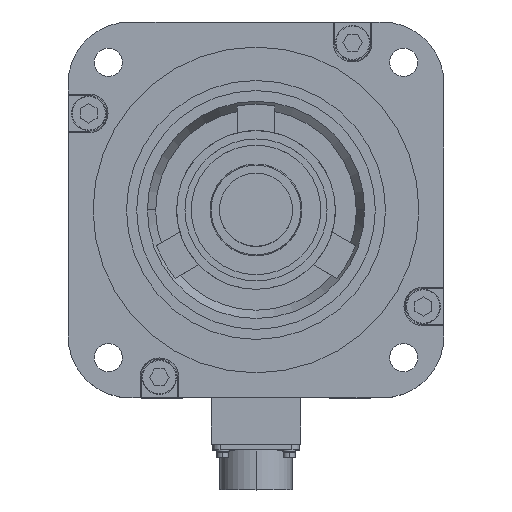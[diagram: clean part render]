
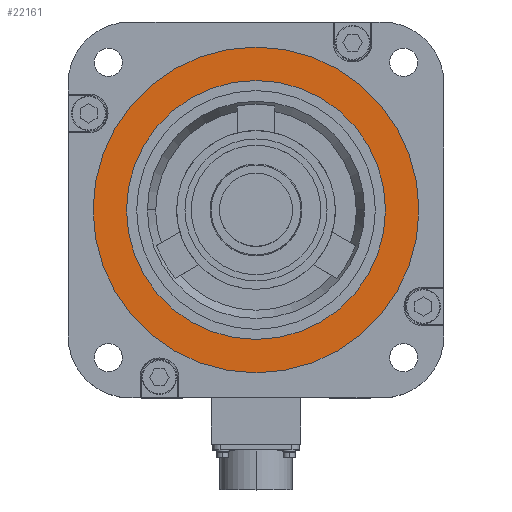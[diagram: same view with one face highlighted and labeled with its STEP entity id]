
A CAD part, top view. The second image highlights one B-rep face of the part: STEP entity #22161.
In plain terms, the highlighted planar face has unit normal (0, 0, 1).
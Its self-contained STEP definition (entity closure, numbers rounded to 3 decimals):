
#5521 = DIRECTION ( 'NONE',  ( 1., 0., 0. ) ) ;
#5522 = DIRECTION ( 'NONE',  ( 0., 0., 1. ) ) ;
#5523 = CARTESIAN_POINT ( 'NONE',  ( 0., 0., -0.5 ) ) ;
#5524 = AXIS2_PLACEMENT_3D ( 'NONE', #5523, #5522, #5521 ) ;
#5525 = CIRCLE ( 'NONE', #5524, 78. ) ;
#6931 = DIRECTION ( 'NONE',  ( 1., 0., 0. ) ) ;
#6932 = DIRECTION ( 'NONE',  ( 0., 0., 1. ) ) ;
#6933 = CARTESIAN_POINT ( 'NONE',  ( 0., 0., -0.5 ) ) ;
#6934 = AXIS2_PLACEMENT_3D ( 'NONE', #6933, #6932, #6931 ) ;
#6935 = PLANE ( 'NONE',  #6934 ) ;
#6936 = FACE_BOUND ( 'NONE', #10311, .T. ) ;
#6937 = FACE_OUTER_BOUND ( 'NONE', #22128, .T. ) ;
#8750 = VERTEX_POINT ( 'NONE', #16196 ) ;
#9053 = VERTEX_POINT ( 'NONE', #16809 ) ;
#9069 = VERTEX_POINT ( 'NONE', #16788 ) ;
#9091 = VERTEX_POINT ( 'NONE', #16826 ) ;
#9111 = EDGE_CURVE ( 'NONE', #9053, #8750, #16864, .T. ) ;
#10057 = ORIENTED_EDGE ( 'NONE', *, *, #9111, .F. ) ;
#10088 = ORIENTED_EDGE ( 'NONE', *, *, #21353, .T. ) ;
#10173 = ORIENTED_EDGE ( 'NONE', *, *, #10330, .T. ) ;
#10311 = EDGE_LOOP ( 'NONE', ( #10314, #10057 ) ) ;
#10314 = ORIENTED_EDGE ( 'NONE', *, *, #10324, .F. ) ;
#10324 = EDGE_CURVE ( 'NONE', #8750, #9053, #18977, .T. ) ;
#10330 = EDGE_CURVE ( 'NONE', #9091, #9069, #18960, .T. ) ;
#16196 = CARTESIAN_POINT ( 'NONE',  ( -62., 0., -0.5 ) ) ;
#16788 = CARTESIAN_POINT ( 'NONE',  ( -78., 0., -0.5 ) ) ;
#16809 = CARTESIAN_POINT ( 'NONE',  ( 62., 0., -0.5 ) ) ;
#16826 = CARTESIAN_POINT ( 'NONE',  ( 78., 0., -0.5 ) ) ;
#16860 = DIRECTION ( 'NONE',  ( 1., 0., 0. ) ) ;
#16861 = DIRECTION ( 'NONE',  ( 0., 0., 1. ) ) ;
#16862 = CARTESIAN_POINT ( 'NONE',  ( 0., 0., -0.5 ) ) ;
#16863 = AXIS2_PLACEMENT_3D ( 'NONE', #16862, #16861, #16860 ) ;
#16864 = CIRCLE ( 'NONE', #16863, 62. ) ;
#18956 = DIRECTION ( 'NONE',  ( 1., 0., 0. ) ) ;
#18957 = DIRECTION ( 'NONE',  ( 0., 0., 1. ) ) ;
#18958 = CARTESIAN_POINT ( 'NONE',  ( 0., 0., -0.5 ) ) ;
#18959 = AXIS2_PLACEMENT_3D ( 'NONE', #18958, #18957, #18956 ) ;
#18960 = CIRCLE ( 'NONE', #18959, 78. ) ;
#18973 = DIRECTION ( 'NONE',  ( 1., 0., 0. ) ) ;
#18974 = DIRECTION ( 'NONE',  ( 0., 0., 1. ) ) ;
#18975 = CARTESIAN_POINT ( 'NONE',  ( 0., 0., -0.5 ) ) ;
#18976 = AXIS2_PLACEMENT_3D ( 'NONE', #18975, #18974, #18973 ) ;
#18977 = CIRCLE ( 'NONE', #18976, 62. ) ;
#21353 = EDGE_CURVE ( 'NONE', #9069, #9091, #5525, .T. ) ;
#22128 = EDGE_LOOP ( 'NONE', ( #10173, #10088 ) ) ;
#22161 = ADVANCED_FACE ( 'NONE', ( #6937, #6936 ), #6935, .T. ) ;
